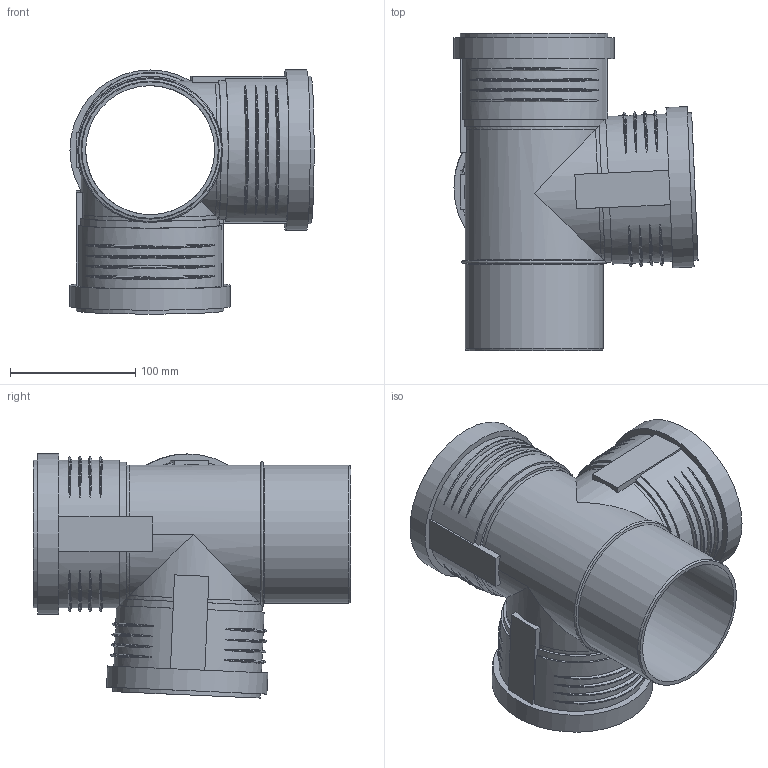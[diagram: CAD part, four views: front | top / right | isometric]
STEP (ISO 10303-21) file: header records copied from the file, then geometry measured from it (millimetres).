
FILE_DESCRIPTION(/* description */ (''),/* implementation_level */ '2;1');
FILE_NAME(/* name */ 'Z:\Geberit\Export\NewStep\390559.stp',/* time_stamp */ '2014-04-02T08:14:51+02:00',/* author */ ('ML'),/* organization */ (''),/* preprocessor_version */ 'ST-DEVELOPER v15.2',/* originating_system */ 'Autodesk Inventor 2014',/* authorisation */ '');
FILE_SCHEMA (('AUTOMOTIVE_DESIGN { 1 0 10303 214 3 1 1 }'));
Length unit declared in the file: millimetre
Products named in the file (5): 861371; 861464; 861464_1; 861464_2; 390559
Bounding box: 194.97 x 253.5 x 194.97 mm (x, y, z)
Volume: 563131.4 mm3; surface area: 323406.4 mm2
Topology: 5 solids, 5 shells, 203 faces, 509 edges, 348 vertices
Faces by surface type: torus 74, cylinder 66, plane 58, cone 5
Full cylindrical faces by diameter (mm): 103.02 x3, 103.6 x3, 110.2 x4, 111.3 x6, 117.9 x3, 121.5 x3, 128.1 x3
Entity records: 8277 total; most frequent: CARTESIAN_POINT 3407, ORIENTED_EDGE 938, DIRECTION 916, EDGE_CURVE 466, AXIS2_PLACEMENT_3D 406, VERTEX_POINT 339, EDGE_LOOP 280, ADVANCED_FACE 202
